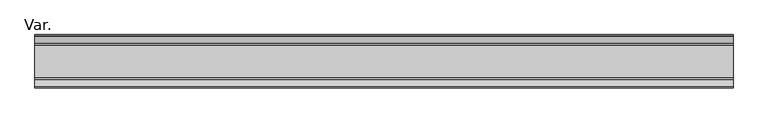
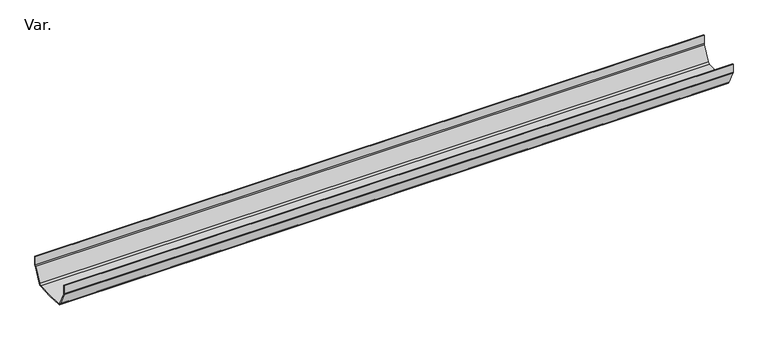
"""IFC4 building model written with IfcOpenShell, lengths in millimetres: pipe fitting geometry, PavcoWavin_UnionesDeTuberia_ZCanal Raingo_NoUsarUnion : Var.."""

from ifc_helpers import new_model, si_unit, point, frame, frame_2d, origin, place, context, project, spatial, polyline, circle_curve, trimmed, segment, composite_curve, outline, extrude, source, transform, mapped, element, save


def var_332e4873(model_context):
    return source(origin(), model_context, "Body", "SweptSolid", [
        extrude(outline(composite_curve([segment(polyline([(-57.15, 40.849975), (-57.15, 59.999975), (-55.15, 59.999975), (-55.15, 40.849975)]), True, "CONTINUOUS"), segment(trimmed(circle_curve(frame_2d((-49.02, 40.849975)), 6.13), [point((-55.15, 40.849975))], [point((-54.656913, 38.4412177))], True, "CARTESIAN"), True, "CONTINUOUS"), segment(polyline([(-54.656913, 38.4412177), (-39.105317, 7.2776717)]), True, "CONTINUOUS"), segment(trimmed(circle_curve(frame_2d((-33.6203555, 10.0148411)), 6.13), [point((-39.105317, 7.2776717))], [point((-34.8799056, 4.0156384))], True, "CARTESIAN"), True, "CONTINUOUS"), segment(trimmed(circle_curve(frame_2d((0.0, 304.8)), 302.8), [point((-34.8799056, 4.0156384))], [point((34.8799056, 4.0156384))], True, "CARTESIAN"), True, "CONTINUOUS"), segment(trimmed(circle_curve(frame_2d((33.6203555, 10.0148411)), 6.13), [point((34.8799056, 4.0156384))], [point((39.105317, 7.2776717))], True, "CARTESIAN"), True, "CONTINUOUS"), segment(polyline([(39.105317, 7.2776717), (54.656913, 38.4412177)]), True, "CONTINUOUS"), segment(trimmed(circle_curve(frame_2d((49.02, 40.849975)), 6.13), [point((54.656913, 38.4412177))], [point((55.15, 40.849975))], True, "CARTESIAN"), True, "CONTINUOUS"), segment(polyline([(55.15, 40.849975), (55.15, 59.999975), (57.15, 59.999975), (57.15, 40.849975)]), True, "CONTINUOUS"), segment(trimmed(circle_curve(frame_2d((49.02, 40.849975)), 8.13), [point((57.15, 40.849975))], [point((56.4709703, 37.5972929))], False, "CARTESIAN"), True, "CONTINUOUS"), segment(polyline([(56.4709703, 37.5972929), (40.8948641, 6.3846311)]), True, "CONTINUOUS"), segment(trimmed(circle_curve(frame_2d((33.6203555, 10.0148411)), 8.13), [point((40.8948641, 6.3846311))], [point((35.1949678, 2.0387835))], False, "CARTESIAN"), True, "CONTINUOUS"), segment(trimmed(circle_curve(frame_2d((0.0, 304.8)), 304.8), [point((35.1949678, 2.0387835))], [point((-35.1949678, 2.0387835))], False, "CARTESIAN"), True, "CONTINUOUS"), segment(trimmed(circle_curve(frame_2d((-33.6203555, 10.0148411)), 8.13), [point((-35.1949678, 2.0387835))], [point((-40.8948641, 6.3846311))], False, "CARTESIAN"), True, "CONTINUOUS"), segment(polyline([(-40.8948641, 6.3846311), (-56.4709703, 37.5972929)]), True, "CONTINUOUS"), segment(trimmed(circle_curve(frame_2d((-49.02, 40.849975)), 8.13), [point((-56.4709703, 37.5972929))], [point((-57.15, 40.849975))], False, "CARTESIAN"), True, "CONTINUOUS")], self_intersect=False)), frame((0.0, 0.0, 0.0), z_axis=(1.0, 0.0, 0.0), x_axis=(0.0, 1.0, 0.0)), (0.0, 0.0, 1.0), 1500.0),
    ])


if __name__ == "__main__":
    model = new_model("IFC4")
    model_context = context("Model", 3, world=origin())
    ifc_project = project(units=[si_unit("LENGTHUNIT", "METRE", prefix="MILLI")], contexts=[model_context])
    site = spatial("IfcSite", under=ifc_project)
    building = spatial("IfcBuilding", under=site)
    placement = place(None, origin())
    var_shape = var_332e4873(model_context)
    element("IfcPipeFitting", 1, ObjectType="PavcoWavin_UnionesDeTuberia_ZCanal Raingo_NoUsarUnion : Var.", at=placement, inside=building, context=model_context, shape_type="MappedRepresentation", body=[
        mapped(var_shape, transform((0.0, 0.0, 0.0), x_axis=(1.0, 0.0, 0.0), y_axis=(0.0, 1.0, 0.0), z_axis=(0.0, 0.0, 1.0))),
    ])
    save(model, "model.ifc")
